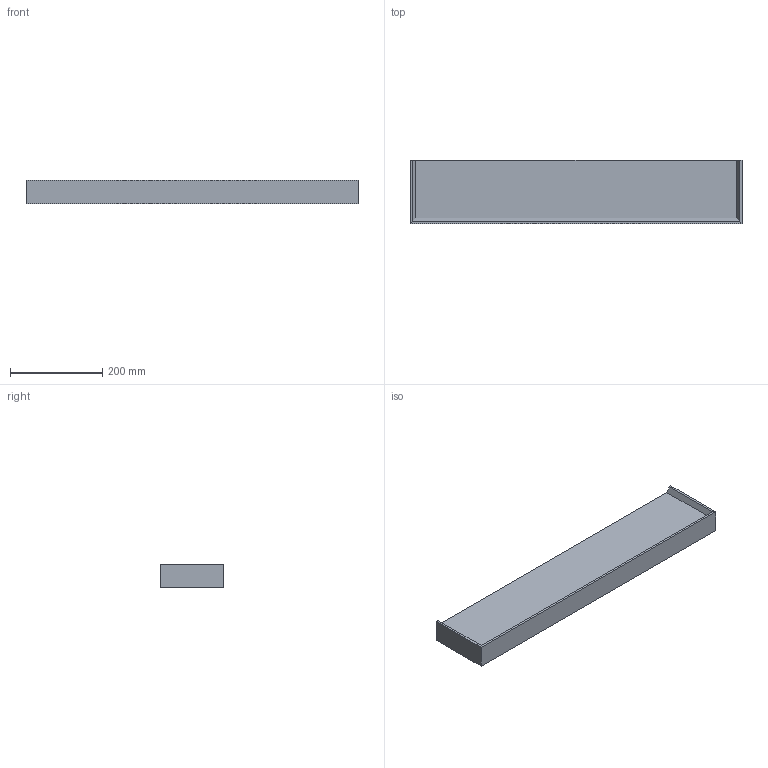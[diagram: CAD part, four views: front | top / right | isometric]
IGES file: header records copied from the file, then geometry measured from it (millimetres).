
Start section: Data from Parasolid IGES Translator 22.0.50, Copyright(c) 2006 Siemens P LM Software. All Rights Reserved.
Global section: file name: noorth-haus-H 5 D 13 W 72_4283.igs; native system: By Siemens PLM Incorporated; preprocessor: XPlus GENERIC/IGES 22.0.50; author: Noname; organization: Noname; date: 20251207.155914; units: metre
Bounding box: 720 x 138 x 50 mm (x, y, z)
Volume: 1595760.4 mm3; surface area: 315211.8 mm2
Topology: 4 solids, 4 shells, 27 faces, 57 edges, 38 vertices
Faces by surface type: plane 27
